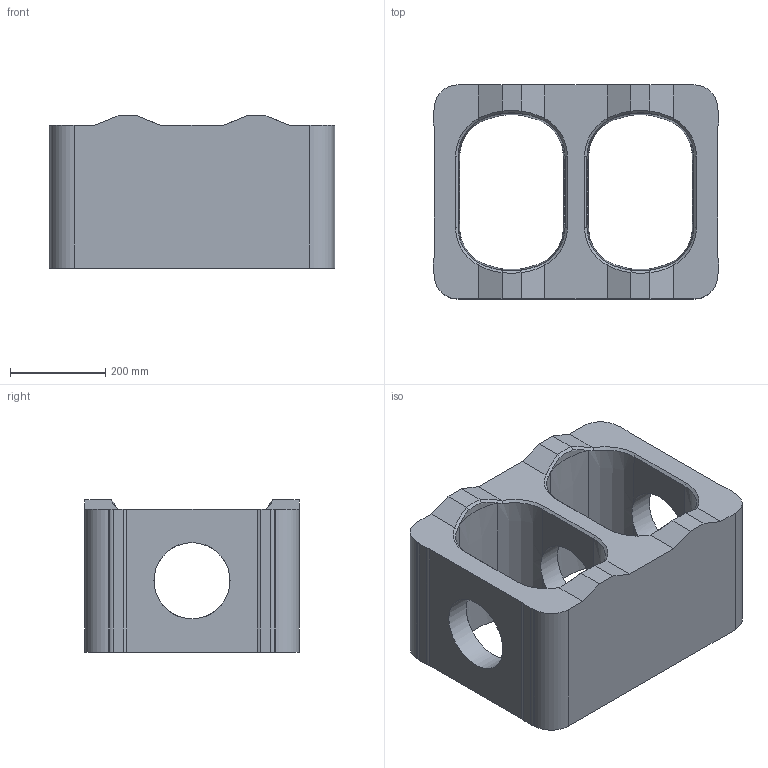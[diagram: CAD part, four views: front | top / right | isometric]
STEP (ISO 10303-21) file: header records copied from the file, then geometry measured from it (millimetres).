
FILE_DESCRIPTION(/* description */ (''),/* implementation_level */ '2;1');
FILE_NAME(/* name */ 'C:\Users\Aroen\Hillblock BV\R&D Bufferblock - Documenten\_3D modellen\aansluitblok.stp',/* time_stamp */ '2020-07-07T15:33:27+02:00',/* author */ ('Aroen'),/* organization */ (''),/* preprocessor_version */ 'ST-DEVELOPER v18.1',/* originating_system */ 'Autodesk Inventor LT',/* authorisation */ '');
FILE_SCHEMA (('CONFIG_CONTROL_DESIGN'));
Length unit declared in the file: millimetre
Products named in the file (1): aansluitblok
Bounding box: 600 x 450 x 320 mm (x, y, z)
Volume: 38214447.1 mm3; surface area: 1404608.2 mm2
Topology: 1 solids, 1 shells, 91 faces, 278 edges, 183 vertices
Faces by surface type: plane 40, cone 24, cylinder 19, bspline 8
Full cylindrical faces by diameter (mm): 160 x3
Entity records: 3493 total; most frequent: CARTESIAN_POINT 1096, ORIENTED_EDGE 556, DIRECTION 438, EDGE_CURVE 278, VERTEX_POINT 183, AXIS2_PLACEMENT_3D 171, LINE 96, VECTOR 96
